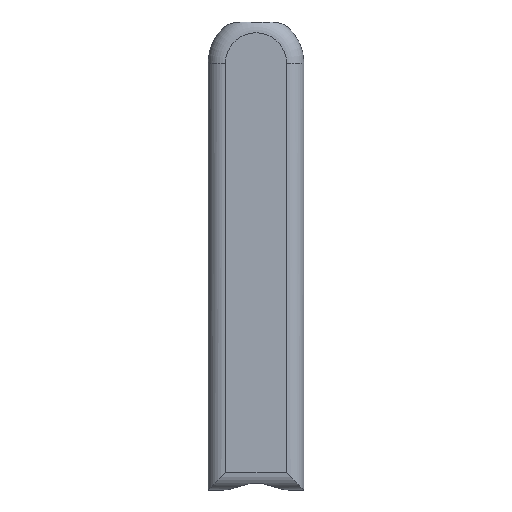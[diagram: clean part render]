
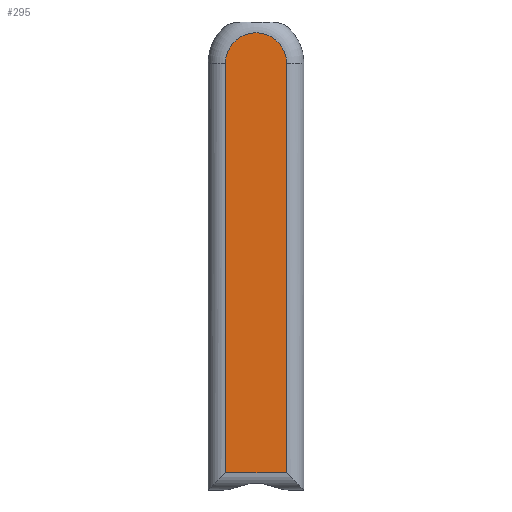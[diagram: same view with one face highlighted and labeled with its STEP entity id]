
A CAD part, front view. The second image highlights one B-rep face of the part: STEP entity #295.
In plain terms, the highlighted planar face has unit normal (0, -1, 0).
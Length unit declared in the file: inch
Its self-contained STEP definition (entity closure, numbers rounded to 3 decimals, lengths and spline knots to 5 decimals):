
#22=PLANE('',#343);
#39=FACE_OUTER_BOUND('',#56,.T.);
#56=EDGE_LOOP('',(#254,#255,#256,#257));
#67=LINE('',#589,#86);
#72=LINE('',#611,#91);
#74=LINE('',#614,#93);
#86=VECTOR('',#386,0.55118);
#91=VECTOR('',#413,3.70079);
#93=VECTOR('',#417,3.70079);
#104=CIRCLE('',#321,0.27559);
#130=VERTEX_POINT('',#566);
#131=VERTEX_POINT('',#568);
#137=VERTEX_POINT('',#586);
#138=VERTEX_POINT('',#588);
#158=EDGE_CURVE('',#130,#131,#104,.T.);
#168=EDGE_CURVE('',#137,#138,#67,.T.);
#180=EDGE_CURVE('',#138,#130,#72,.T.);
#182=EDGE_CURVE('',#131,#137,#74,.T.);
#254=ORIENTED_EDGE('',*,*,#180,.F.);
#255=ORIENTED_EDGE('',*,*,#168,.F.);
#256=ORIENTED_EDGE('',*,*,#182,.F.);
#257=ORIENTED_EDGE('',*,*,#158,.F.);
#295=ADVANCED_FACE('',(#39),#22,.F.);
#321=AXIS2_PLACEMENT_3D('',#569,#365,#366);
#343=AXIS2_PLACEMENT_3D('',#619,#424,#425);
#365=DIRECTION('center_axis',(0.,1.,0.));
#366=DIRECTION('ref_axis',(0.,0.,1.));
#386=DIRECTION('',(-1.,0.,0.));
#413=DIRECTION('',(0.,0.,1.));
#417=DIRECTION('',(0.,0.,-1.));
#424=DIRECTION('center_axis',(0.,1.,0.));
#425=DIRECTION('ref_axis',(0.,0.,1.));
#566=CARTESIAN_POINT('',(-0.27559,-0.43307,3.89764));
#568=CARTESIAN_POINT('',(0.27559,-0.43307,3.89764));
#569=CARTESIAN_POINT('Origin',(0.,-0.43307,
3.89764));
#586=CARTESIAN_POINT('',(0.27559,-0.43307,0.19685));
#588=CARTESIAN_POINT('',(-0.27559,-0.43307,0.19685));
#589=CARTESIAN_POINT('',(0.27559,-0.43307,0.19685));
#611=CARTESIAN_POINT('',(-0.27559,-0.43307,0.19685));
#614=CARTESIAN_POINT('',(0.27559,-0.43307,3.89764));
#619=CARTESIAN_POINT('Origin',(0.,-0.43307,
3.89764));
